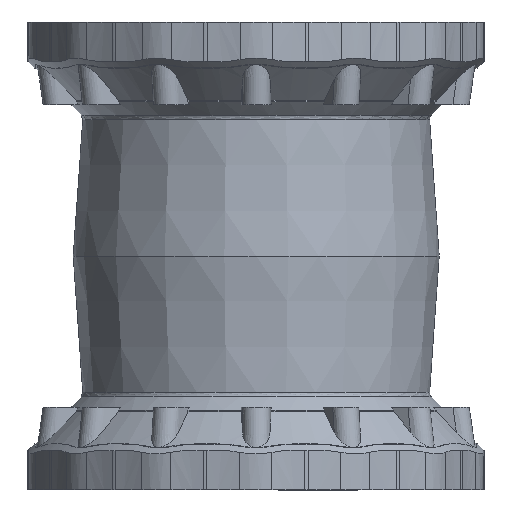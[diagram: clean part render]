
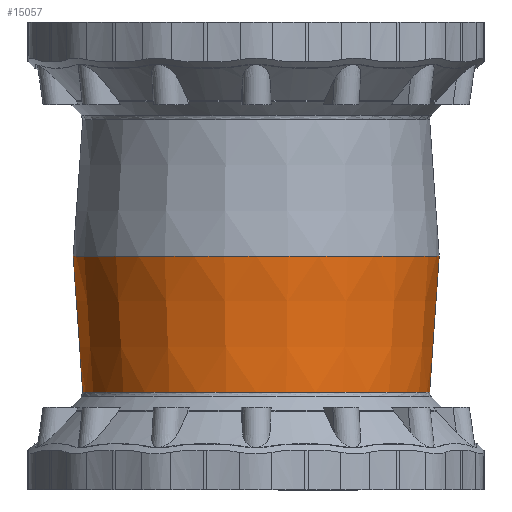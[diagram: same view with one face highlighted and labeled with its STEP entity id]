
A CAD part, front view. The second image highlights one B-rep face of the part: STEP entity #15057.
In plain terms, the highlighted conical face has half-angle 4 degrees and reference radius 297.227 mm.
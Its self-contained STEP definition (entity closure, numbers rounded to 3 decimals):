
#759 = CIRCLE ( 'NONE', #3574, 288.978 ) ;
#761 = CIRCLE ( 'NONE', #3570, 304.863 ) ;
#3120 = EDGE_CURVE ( 'NONE', #24545, #24545, #761, .T. ) ;
#3153 = EDGE_CURVE ( 'NONE', #24546, #24546, #759, .T. ) ;
#3570 = AXIS2_PLACEMENT_3D ( 'NONE', #16719, #16721, #16723 ) ;
#3574 = AXIS2_PLACEMENT_3D ( 'NONE', #17138, #17140, #17142 ) ;
#8583 = CARTESIAN_POINT ( 'NONE',  ( 288.978, 0., -117.962 ) ) ;
#8585 = CARTESIAN_POINT ( 'NONE',  ( 304.863, 0., 109.2 ) ) ;
#14803 = ORIENTED_EDGE ( 'NONE', *, *, #3120, .F. ) ;
#14804 = ORIENTED_EDGE ( 'NONE', *, *, #3153, .T. ) ;
#15057 = ADVANCED_FACE ( 'NONE', ( #29922, #29923 ), #29929, .T. ) ;
#16719 = CARTESIAN_POINT ( 'NONE',  ( 0., 0., 109.2 ) ) ;
#16721 = DIRECTION ( 'NONE',  ( 0., 0., 1. ) ) ;
#16723 = DIRECTION ( 'NONE',  ( 1., 0., 0. ) ) ;
#17138 = CARTESIAN_POINT ( 'NONE',  ( 0., 0., -117.962 ) ) ;
#17140 = DIRECTION ( 'NONE',  ( 0., 0., 1. ) ) ;
#17142 = DIRECTION ( 'NONE',  ( 1., 0., 0. ) ) ;
#24545 = VERTEX_POINT ( 'NONE', #8585 ) ;
#24546 = VERTEX_POINT ( 'NONE', #8583 ) ;
#28796 = AXIS2_PLACEMENT_3D ( 'NONE', #36137, #36138, #36035 ) ;
#29922 = FACE_OUTER_BOUND ( 'NONE', #32510, .T. ) ;
#29923 = FACE_BOUND ( 'NONE', #32496, .T. ) ;
#29929 = CONICAL_SURFACE ( 'NONE', #28796, 297.227, 0.07 ) ;
#32496 = EDGE_LOOP ( 'NONE', ( #14804 ) ) ;
#32510 = EDGE_LOOP ( 'NONE', ( #14803 ) ) ;
#36035 = DIRECTION ( 'NONE',  ( 1., 0., 0. ) ) ;
#36137 = CARTESIAN_POINT ( 'NONE',  ( 0., 0., 0. ) ) ;
#36138 = DIRECTION ( 'NONE',  ( 0., 0., 1. ) ) ;
